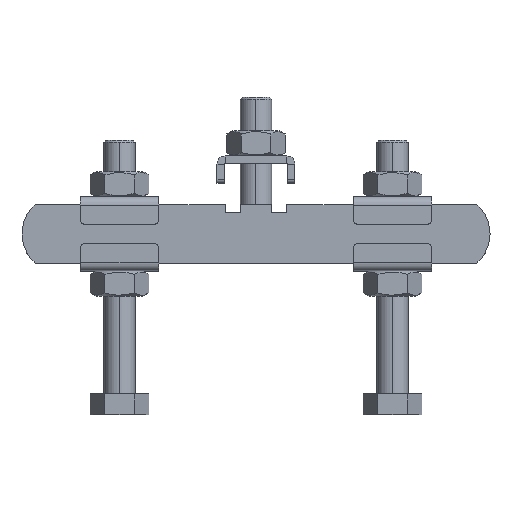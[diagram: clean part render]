
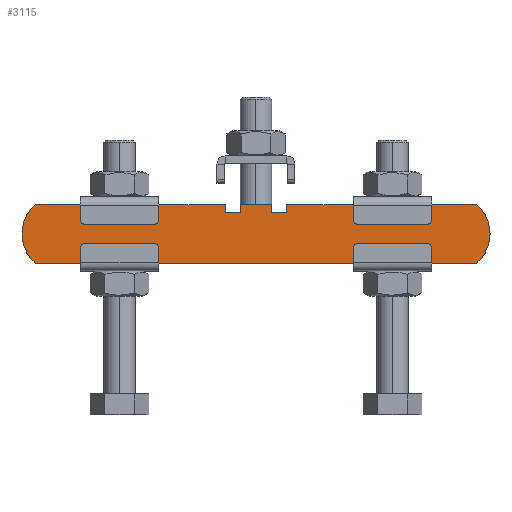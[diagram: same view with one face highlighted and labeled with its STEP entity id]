
A CAD part, top view. The second image highlights one B-rep face of the part: STEP entity #3115.
In plain terms, the highlighted planar face has unit normal (0, 0, 1).
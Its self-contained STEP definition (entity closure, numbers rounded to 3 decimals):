
#20 = AXIS2_PLACEMENT_3D ( 'NONE', #1678, #1229, #1333 ) ;
#21 = CIRCLE ( 'NONE', #20, 10. ) ;
#23 = VECTOR ( 'NONE', #1550, 1000. ) ;
#26 = CIRCLE ( 'NONE', #50, 10. ) ;
#42 = VECTOR ( 'NONE', #1395, 1000. ) ;
#45 = VECTOR ( 'NONE', #1539, 1000. ) ;
#50 = AXIS2_PLACEMENT_3D ( 'NONE', #1366, #1399, #1657 ) ;
#114 = EDGE_CURVE ( 'NONE', #1660, #1489, #21, .T. ) ;
#117 = EDGE_CURVE ( 'NONE', #1616, #1268, #1447, .T. ) ;
#123 = EDGE_CURVE ( 'NONE', #1638, #1458, #1523, .T. ) ;
#124 = EDGE_CURVE ( 'NONE', #1458, #1400, #26, .T. ) ;
#130 = EDGE_CURVE ( 'NONE', #1618, #1332, #1359, .T. ) ;
#132 = EDGE_CURVE ( 'NONE', #1489, #1616, #2426, .T. ) ;
#133 = EDGE_CURVE ( 'NONE', #1400, #1660, #1345, .T. ) ;
#143 = EDGE_CURVE ( 'NONE', #1363, #1268, #1570, .T. ) ;
#144 = EDGE_CURVE ( 'NONE', #1503, #1363, #1283, .T. ) ;
#145 = EDGE_CURVE ( 'NONE', #1618, #1503, #1624, .T. ) ;
#146 = EDGE_CURVE ( 'NONE', #1460, #1332, #1314, .T. ) ;
#147 = EDGE_CURVE ( 'NONE', #1457, #1460, #1478, .T. ) ;
#148 = EDGE_CURVE ( 'NONE', #1638, #1457, #1397, .T. ) ;
#170 = CARTESIAN_POINT ( 'NONE',  ( 7.9, 5.5, 0. ) ) ;
#209 = CARTESIAN_POINT ( 'NONE',  ( 3.9, 5.5, 0. ) ) ;
#213 = CARTESIAN_POINT ( 'NONE',  ( 56.614, 7.5, 0. ) ) ;
#244 = CARTESIAN_POINT ( 'NONE',  ( 56.614, -7.5, 0. ) ) ;
#313 = CARTESIAN_POINT ( 'NONE',  ( -3.9, 7.5, 0. ) ) ;
#349 = CARTESIAN_POINT ( 'NONE',  ( -3.9, 5.5, 0. ) ) ;
#378 = CARTESIAN_POINT ( 'NONE',  ( 7.9, 7.5, 0. ) ) ;
#411 = CARTESIAN_POINT ( 'NONE',  ( -7.9, 7.5, 0. ) ) ;
#444 = CARTESIAN_POINT ( 'NONE',  ( -56.614, -7.5, 0. ) ) ;
#460 = CARTESIAN_POINT ( 'NONE',  ( 60., 0., 0. ) ) ;
#465 = CARTESIAN_POINT ( 'NONE',  ( -56.614, 7.5, 0. ) ) ;
#466 = CARTESIAN_POINT ( 'NONE',  ( -7.9, 5.5, 0. ) ) ;
#509 = CARTESIAN_POINT ( 'NONE',  ( 3.9, 7.5, 0. ) ) ;
#725 = EDGE_LOOP ( 'NONE', ( #1548, #1683, #1647, #1605, #1402, #1459, #1684, #1544, #1555, #1272, #1691, #1406, #1559 ) ) ;
#910 = AXIS2_PLACEMENT_3D ( 'NONE', #1765, #2904, #2907 ) ;
#1229 = DIRECTION ( 'NONE',  ( 0., 0., 1. ) ) ;
#1230 = DIRECTION ( 'NONE',  ( 1., 0., 0. ) ) ;
#1244 = DIRECTION ( 'NONE',  ( 0., 1., 0. ) ) ;
#1264 = CARTESIAN_POINT ( 'NONE',  ( -56.614, 7.5, 0. ) ) ;
#1268 = VERTEX_POINT ( 'NONE', #378 ) ;
#1272 = ORIENTED_EDGE ( 'NONE', *, *, #133, .T. ) ;
#1283 = LINE ( 'NONE', #1520, #2405 ) ;
#1290 = DIRECTION ( 'NONE',  ( 0., -1., 0. ) ) ;
#1308 = CARTESIAN_POINT ( 'NONE',  ( 50., 0., 0. ) ) ;
#1312 = DIRECTION ( 'NONE',  ( 1., 0., 0. ) ) ;
#1314 = LINE ( 'NONE', #1604, #2428 ) ;
#1319 = DIRECTION ( 'NONE',  ( 0., 0., 1. ) ) ;
#1332 = VERTEX_POINT ( 'NONE', #313 ) ;
#1333 = DIRECTION ( 'NONE',  ( -1., 0., 0. ) ) ;
#1337 = DIRECTION ( 'NONE',  ( -1., 0., 0. ) ) ;
#1342 = CARTESIAN_POINT ( 'NONE',  ( -56.614, -7.5, 0. ) ) ;
#1345 = LINE ( 'NONE', #1342, #2388 ) ;
#1359 = LINE ( 'NONE', #1264, #42 ) ;
#1363 = VERTEX_POINT ( 'NONE', #170 ) ;
#1366 = CARTESIAN_POINT ( 'NONE',  ( -50., 0., 0. ) ) ;
#1395 = DIRECTION ( 'NONE',  ( -1., 0., 0. ) ) ;
#1397 = LINE ( 'NONE', #1424, #2394 ) ;
#1399 = DIRECTION ( 'NONE',  ( 0., 0., 1. ) ) ;
#1400 = VERTEX_POINT ( 'NONE', #444 ) ;
#1402 = ORIENTED_EDGE ( 'NONE', *, *, #146, .F. ) ;
#1406 = ORIENTED_EDGE ( 'NONE', *, *, #132, .T. ) ;
#1424 = CARTESIAN_POINT ( 'NONE',  ( -7.9, 7.5, 0. ) ) ;
#1431 = CARTESIAN_POINT ( 'NONE',  ( -56.614, 7.5, 0. ) ) ;
#1447 = LINE ( 'NONE', #1477, #45 ) ;
#1457 = VERTEX_POINT ( 'NONE', #466 ) ;
#1458 = VERTEX_POINT ( 'NONE', #465 ) ;
#1459 = ORIENTED_EDGE ( 'NONE', *, *, #147, .F. ) ;
#1460 = VERTEX_POINT ( 'NONE', #349 ) ;
#1474 = DIRECTION ( 'NONE',  ( 0., 1., 0. ) ) ;
#1477 = CARTESIAN_POINT ( 'NONE',  ( -56.614, 7.5, 0. ) ) ;
#1478 = LINE ( 'NONE', #1612, #2390 ) ;
#1489 = VERTEX_POINT ( 'NONE', #460 ) ;
#1503 = VERTEX_POINT ( 'NONE', #209 ) ;
#1509 = DIRECTION ( 'NONE',  ( 1., 0., 0. ) ) ;
#1516 = DIRECTION ( 'NONE',  ( 0., -1., 0. ) ) ;
#1520 = CARTESIAN_POINT ( 'NONE',  ( 7.9, 5.5, 0. ) ) ;
#1523 = LINE ( 'NONE', #1431, #23 ) ;
#1539 = DIRECTION ( 'NONE',  ( -1., 0., 0. ) ) ;
#1544 = ORIENTED_EDGE ( 'NONE', *, *, #123, .T. ) ;
#1548 = ORIENTED_EDGE ( 'NONE', *, *, #143, .F. ) ;
#1550 = DIRECTION ( 'NONE',  ( -1., 0., 0. ) ) ;
#1555 = ORIENTED_EDGE ( 'NONE', *, *, #124, .T. ) ;
#1558 = CARTESIAN_POINT ( 'NONE',  ( 7.9, 7.5, 0. ) ) ;
#1559 = ORIENTED_EDGE ( 'NONE', *, *, #117, .T. ) ;
#1570 = LINE ( 'NONE', #1558, #2420 ) ;
#1604 = CARTESIAN_POINT ( 'NONE',  ( -3.9, 7.5, 0. ) ) ;
#1605 = ORIENTED_EDGE ( 'NONE', *, *, #130, .T. ) ;
#1612 = CARTESIAN_POINT ( 'NONE',  ( -7.9, 5.5, 0. ) ) ;
#1616 = VERTEX_POINT ( 'NONE', #213 ) ;
#1618 = VERTEX_POINT ( 'NONE', #509 ) ;
#1624 = LINE ( 'NONE', #1677, #2422 ) ;
#1638 = VERTEX_POINT ( 'NONE', #411 ) ;
#1647 = ORIENTED_EDGE ( 'NONE', *, *, #145, .F. ) ;
#1657 = DIRECTION ( 'NONE',  ( 1., 0., 0. ) ) ;
#1660 = VERTEX_POINT ( 'NONE', #244 ) ;
#1677 = CARTESIAN_POINT ( 'NONE',  ( 3.9, 7.5, 0. ) ) ;
#1678 = CARTESIAN_POINT ( 'NONE',  ( 50., 0., 0. ) ) ;
#1683 = ORIENTED_EDGE ( 'NONE', *, *, #144, .F. ) ;
#1684 = ORIENTED_EDGE ( 'NONE', *, *, #148, .F. ) ;
#1691 = ORIENTED_EDGE ( 'NONE', *, *, #114, .T. ) ;
#1761 = FACE_OUTER_BOUND ( 'NONE', #725, .T. ) ;
#1765 = CARTESIAN_POINT ( 'NONE',  ( -50., 0., 0. ) ) ;
#1769 = PLANE ( 'NONE',  #910 ) ;
#2388 = VECTOR ( 'NONE', #1312, 1000. ) ;
#2390 = VECTOR ( 'NONE', #1230, 1000. ) ;
#2391 = AXIS2_PLACEMENT_3D ( 'NONE', #1308, #1319, #1337 ) ;
#2394 = VECTOR ( 'NONE', #1290, 1000. ) ;
#2405 = VECTOR ( 'NONE', #1509, 1000. ) ;
#2420 = VECTOR ( 'NONE', #1474, 1000. ) ;
#2422 = VECTOR ( 'NONE', #1516, 1000. ) ;
#2426 = CIRCLE ( 'NONE', #2391, 10. ) ;
#2428 = VECTOR ( 'NONE', #1244, 1000. ) ;
#2904 = DIRECTION ( 'NONE',  ( 0., 0., 1. ) ) ;
#2907 = DIRECTION ( 'NONE',  ( 1., 0., 0. ) ) ;
#3115 = ADVANCED_FACE ( 'NONE', ( #1761 ), #1769, .T. ) ;
